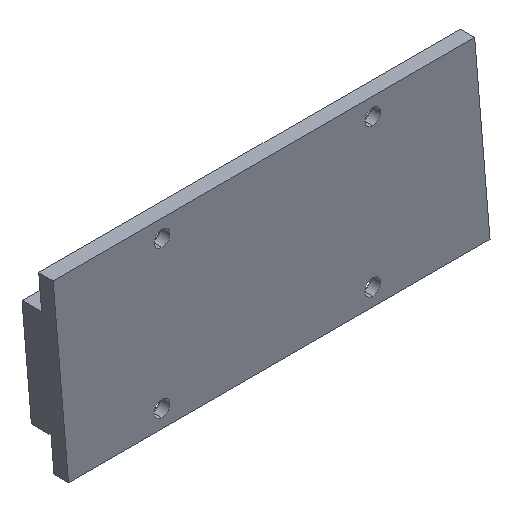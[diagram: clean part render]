
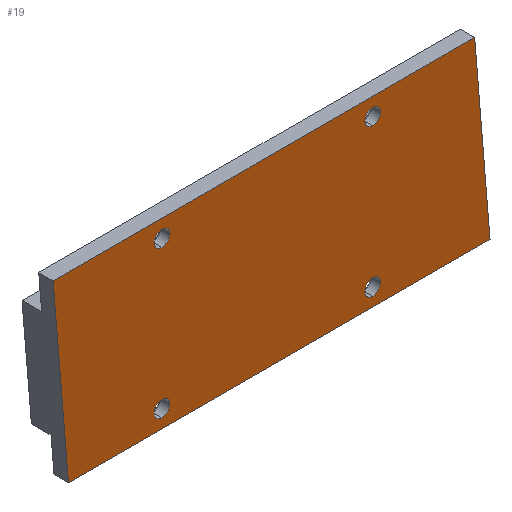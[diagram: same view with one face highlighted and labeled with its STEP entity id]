
A CAD part, isometric view. The second image highlights one B-rep face of the part: STEP entity #19.
In plain terms, the highlighted planar face has unit normal (0, -1, 0).
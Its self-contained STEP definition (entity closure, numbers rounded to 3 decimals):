
#10 = ORIENTED_EDGE ( 'NONE', *, *, #641, .T. ) ;
#13 = EDGE_CURVE ( 'NONE', #107, #96, #632, .T. ) ;
#19 = ADVANCED_FACE ( 'NONE', ( #631, #619, #624, #611, #677 ), #625, .F. ) ;
#23 = EDGE_LOOP ( 'NONE', ( #30, #36, #2578, #2575 ) ) ;
#24 = EDGE_LOOP ( 'NONE', ( #10, #2533 ) ) ;
#25 = ORIENTED_EDGE ( 'NONE', *, *, #475, .T. ) ;
#26 = EDGE_CURVE ( 'NONE', #462, #461, #664, .T. ) ;
#27 = ORIENTED_EDGE ( 'NONE', *, *, #26, .T. ) ;
#29 = ORIENTED_EDGE ( 'NONE', *, *, #33, .T. ) ;
#30 = ORIENTED_EDGE ( 'NONE', *, *, #95, .T. ) ;
#31 = ORIENTED_EDGE ( 'NONE', *, *, #408, .T. ) ;
#32 = EDGE_LOOP ( 'NONE', ( #35, #31 ) ) ;
#33 = EDGE_CURVE ( 'NONE', #468, #455, #655, .T. ) ;
#34 = EDGE_LOOP ( 'NONE', ( #29, #25 ) ) ;
#35 = ORIENTED_EDGE ( 'NONE', *, *, #2534, .T. ) ;
#36 = ORIENTED_EDGE ( 'NONE', *, *, #88, .F. ) ;
#37 = EDGE_LOOP ( 'NONE', ( #27, #2573 ) ) ;
#58 = VERTEX_POINT ( 'NONE', #705 ) ;
#81 = EDGE_CURVE ( 'NONE', #58, #107, #712, .T. ) ;
#88 = EDGE_CURVE ( 'NONE', #96, #106, #768, .T. ) ;
#95 = EDGE_CURVE ( 'NONE', #58, #106, #753, .T. ) ;
#96 = VERTEX_POINT ( 'NONE', #761 ) ;
#106 = VERTEX_POINT ( 'NONE', #751 ) ;
#107 = VERTEX_POINT ( 'NONE', #799 ) ;
#402 = VERTEX_POINT ( 'NONE', #1819 ) ;
#404 = VERTEX_POINT ( 'NONE', #1824 ) ;
#408 = EDGE_CURVE ( 'NONE', #402, #404, #1513, .T. ) ;
#447 = EDGE_CURVE ( 'NONE', #461, #462, #1900, .T. ) ;
#455 = VERTEX_POINT ( 'NONE', #1931 ) ;
#461 = VERTEX_POINT ( 'NONE', #1916 ) ;
#462 = VERTEX_POINT ( 'NONE', #1922 ) ;
#468 = VERTEX_POINT ( 'NONE', #1911 ) ;
#475 = EDGE_CURVE ( 'NONE', #455, #468, #1960, .T. ) ;
#495 = VERTEX_POINT ( 'NONE', #1984 ) ;
#507 = VERTEX_POINT ( 'NONE', #2055 ) ;
#512 = EDGE_CURVE ( 'NONE', #495, #507, #2053, .T. ) ;
#611 = FACE_BOUND ( 'NONE', #37, .T. ) ;
#613 = AXIS2_PLACEMENT_3D ( 'NONE', #620, #668, #667 ) ;
#619 = FACE_BOUND ( 'NONE', #32, .T. ) ;
#620 = CARTESIAN_POINT ( 'NONE',  ( 220.266, 0., -15.909 ) ) ;
#621 = DIRECTION ( 'NONE',  ( -0.084, 0., 0.996 ) ) ;
#622 = VECTOR ( 'NONE', #621, 1000. ) ;
#623 = CARTESIAN_POINT ( 'NONE',  ( 264.941, 0., -12.16 ) ) ;
#624 = FACE_BOUND ( 'NONE', #34, .T. ) ;
#625 = PLANE ( 'NONE',  #613 ) ;
#631 = FACE_BOUND ( 'NONE', #24, .T. ) ;
#632 = LINE ( 'NONE', #623, #622 ) ;
#641 = EDGE_CURVE ( 'NONE', #507, #495, #2354, .T. ) ;
#650 = DIRECTION ( 'NONE',  ( 0., 0., 1. ) ) ;
#651 = AXIS2_PLACEMENT_3D ( 'NONE', #666, #665, #650 ) ;
#655 = CIRCLE ( 'NONE', #651, 2.25 ) ;
#657 = DIRECTION ( 'NONE',  ( 0., 0., 1. ) ) ;
#658 = DIRECTION ( 'NONE',  ( 0., 1., 0. ) ) ;
#664 = CIRCLE ( 'NONE', #671, 2.25 ) ;
#665 = DIRECTION ( 'NONE',  ( 0., 1., 0. ) ) ;
#666 = CARTESIAN_POINT ( 'NONE',  ( 294.073, 0., 5.091 ) ) ;
#667 = DIRECTION ( 'NONE',  ( 0., 0., 1. ) ) ;
#668 = DIRECTION ( 'NONE',  ( 0., 1., 0. ) ) ;
#670 = CARTESIAN_POINT ( 'NONE',  ( 294.073, 0., -36.909 ) ) ;
#671 = AXIS2_PLACEMENT_3D ( 'NONE', #670, #658, #657 ) ;
#677 = FACE_OUTER_BOUND ( 'NONE', #23, .T. ) ;
#705 = CARTESIAN_POINT ( 'NONE',  ( 387.437, 0., -41.909 ) ) ;
#709 = DIRECTION ( 'NONE',  ( -1., 0., 0. ) ) ;
#710 = VECTOR ( 'NONE', #709, 1000. ) ;
#711 = CARTESIAN_POINT ( 'NONE',  ( 220.266, 0., -41.909 ) ) ;
#712 = LINE ( 'NONE', #711, #710 ) ;
#745 = CARTESIAN_POINT ( 'NONE',  ( 384.102, 0., -2.16 ) ) ;
#751 = CARTESIAN_POINT ( 'NONE',  ( 383.073, 0., 10.091 ) ) ;
#753 = LINE ( 'NONE', #745, #810 ) ;
#754 = DIRECTION ( 'NONE',  ( 1., 0., 0. ) ) ;
#755 = VECTOR ( 'NONE', #754, 1000. ) ;
#756 = CARTESIAN_POINT ( 'NONE',  ( 220.266, 0., 10.091 ) ) ;
#761 = CARTESIAN_POINT ( 'NONE',  ( 263.073, 0., 10.091 ) ) ;
#768 = LINE ( 'NONE', #756, #755 ) ;
#799 = CARTESIAN_POINT ( 'NONE',  ( 267.437, 0., -41.909 ) ) ;
#809 = DIRECTION ( 'NONE',  ( -0.084, 0., 0.996 ) ) ;
#810 = VECTOR ( 'NONE', #809, 1000. ) ;
#1513 = CIRCLE ( 'NONE', #1602, 2.25 ) ;
#1602 = AXIS2_PLACEMENT_3D ( 'NONE', #1612, #1611, #1610 ) ;
#1610 = DIRECTION ( 'NONE',  ( 0., 0., 1. ) ) ;
#1611 = DIRECTION ( 'NONE',  ( 0., 1., 0. ) ) ;
#1612 = CARTESIAN_POINT ( 'NONE',  ( 354.073, 0., -36.909 ) ) ;
#1819 = CARTESIAN_POINT ( 'NONE',  ( 354.073, 0., -39.159 ) ) ;
#1824 = CARTESIAN_POINT ( 'NONE',  ( 354.073, 0., -34.659 ) ) ;
#1878 = DIRECTION ( 'NONE',  ( 0., 0., 1. ) ) ;
#1879 = DIRECTION ( 'NONE',  ( 0., 1., 0. ) ) ;
#1880 = AXIS2_PLACEMENT_3D ( 'NONE', #1893, #1879, #1878 ) ;
#1893 = CARTESIAN_POINT ( 'NONE',  ( 294.073, 0., -36.909 ) ) ;
#1900 = CIRCLE ( 'NONE', #1880, 2.25 ) ;
#1903 = CARTESIAN_POINT ( 'NONE',  ( 294.073, 0., 5.091 ) ) ;
#1911 = CARTESIAN_POINT ( 'NONE',  ( 294.073, 0., 7.341 ) ) ;
#1916 = CARTESIAN_POINT ( 'NONE',  ( 294.073, 0., -39.159 ) ) ;
#1922 = CARTESIAN_POINT ( 'NONE',  ( 294.073, 0., -34.659 ) ) ;
#1931 = CARTESIAN_POINT ( 'NONE',  ( 294.073, 0., 2.841 ) ) ;
#1951 = DIRECTION ( 'NONE',  ( 0., 0., 1. ) ) ;
#1952 = DIRECTION ( 'NONE',  ( 0., 1., 0. ) ) ;
#1953 = AXIS2_PLACEMENT_3D ( 'NONE', #1903, #1952, #1951 ) ;
#1960 = CIRCLE ( 'NONE', #1953, 2.25 ) ;
#1984 = CARTESIAN_POINT ( 'NONE',  ( 354.073, 0., 2.841 ) ) ;
#2001 = AXIS2_PLACEMENT_3D ( 'NONE', #2044, #2043, #2042 ) ;
#2042 = DIRECTION ( 'NONE',  ( 0., 0., 1. ) ) ;
#2043 = DIRECTION ( 'NONE',  ( 0., 1., 0. ) ) ;
#2044 = CARTESIAN_POINT ( 'NONE',  ( 354.073, 0., 5.091 ) ) ;
#2053 = CIRCLE ( 'NONE', #2001, 2.25 ) ;
#2055 = CARTESIAN_POINT ( 'NONE',  ( 354.073, 0., 7.341 ) ) ;
#2350 = DIRECTION ( 'NONE',  ( 0., 0., 1. ) ) ;
#2351 = DIRECTION ( 'NONE',  ( 0., 1., 0. ) ) ;
#2352 = CARTESIAN_POINT ( 'NONE',  ( 354.073, 0., 5.091 ) ) ;
#2353 = AXIS2_PLACEMENT_3D ( 'NONE', #2352, #2351, #2350 ) ;
#2354 = CIRCLE ( 'NONE', #2353, 2.25 ) ;
#2465 = DIRECTION ( 'NONE',  ( 0., 0., 1. ) ) ;
#2466 = DIRECTION ( 'NONE',  ( 0., 1., 0. ) ) ;
#2467 = CARTESIAN_POINT ( 'NONE',  ( 354.073, 0., -36.909 ) ) ;
#2468 = AXIS2_PLACEMENT_3D ( 'NONE', #2467, #2466, #2465 ) ;
#2469 = CIRCLE ( 'NONE', #2468, 2.25 ) ;
#2533 = ORIENTED_EDGE ( 'NONE', *, *, #512, .T. ) ;
#2534 = EDGE_CURVE ( 'NONE', #404, #402, #2469, .T. ) ;
#2573 = ORIENTED_EDGE ( 'NONE', *, *, #447, .T. ) ;
#2575 = ORIENTED_EDGE ( 'NONE', *, *, #81, .F. ) ;
#2578 = ORIENTED_EDGE ( 'NONE', *, *, #13, .F. ) ;
